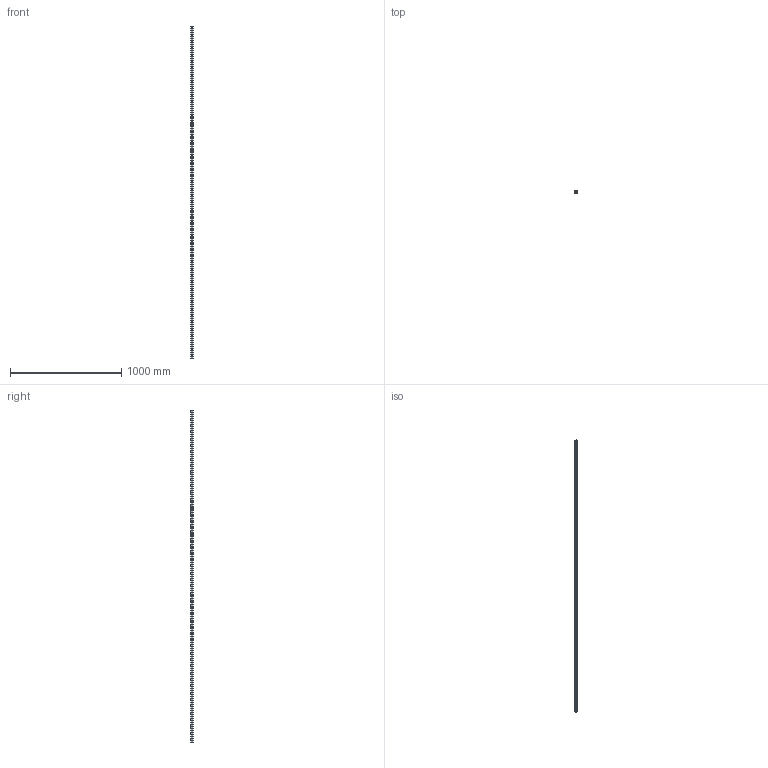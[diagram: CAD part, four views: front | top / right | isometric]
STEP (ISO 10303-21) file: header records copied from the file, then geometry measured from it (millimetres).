
FILE_DESCRIPTION (( 'STEP AP203' ), '1' );
FILE_NAME ('L1016.BL25-2980.step', '2019-06-12T12:13:22', ( '' ), ( '' ), 'SwSTEP 2.0', 'SolidWorks 2017', '' );
FILE_SCHEMA (( 'CONFIG_CONTROL_DESIGN' ));
Length unit declared in the file: millimetre
Products named in the file (1): L1016.BL25-2980
Bounding box: 23 x 19.2 x 2980 mm (x, y, z)
Volume: 1098172.9 mm3; surface area: 281950.1 mm2
Topology: 1 solids, 1 shells, 276 faces, 672 edges, 448 vertices
Faces by surface type: cylinder 204, plane 72
Entity records: 8601 total; most frequent: DIRECTION 1634, CARTESIAN_POINT 1397, ORIENTED_EDGE 1344, AXIS2_PLACEMENT_3D 685, EDGE_CURVE 672, VERTEX_POINT 448, EDGE_LOOP 426, CIRCLE 408
